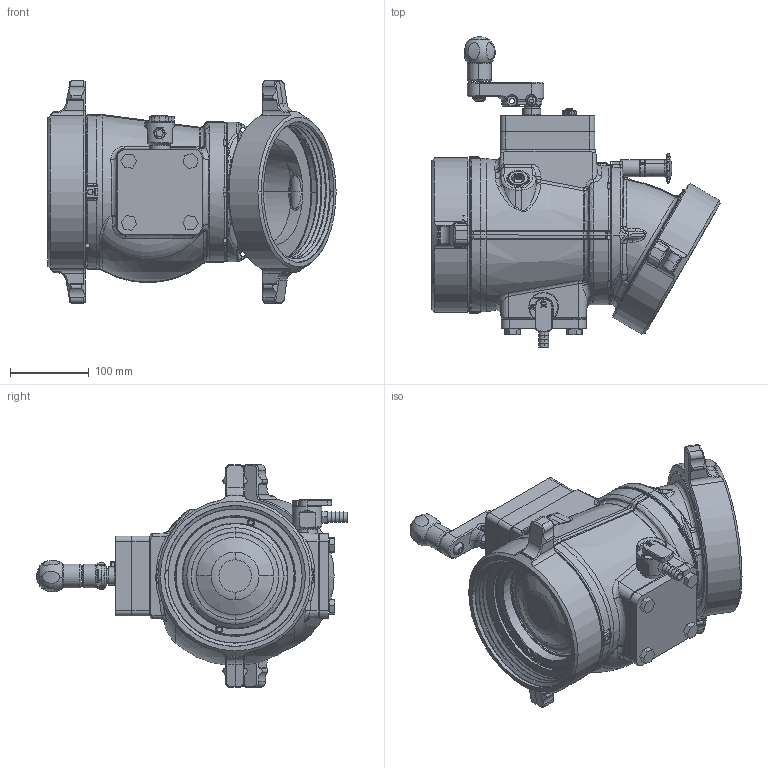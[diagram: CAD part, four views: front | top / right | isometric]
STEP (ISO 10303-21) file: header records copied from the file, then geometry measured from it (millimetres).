
FILE_DESCRIPTION (( 'STEP AP203' ), '1' );
FILE_NAME ('AZ7HNX-NX-PS.step', '2014-05-13T19:29:40', ( 'user' ), ( '' ), 'SwSTEP 2.0', 'SolidWorks 2012', '' );
FILE_SCHEMA (( 'CONFIG_CONTROL_DESIGN' ));
Length unit declared in the file: inch
Products named in the file (1): AZ7HNX-NX-PS
Bounding box: 367.07 x 395.73 x 283.46 mm (x, y, z)
Surface area: 580457.7 mm2 (no closed solid volume)
Topology: 0 solids, 63 shells, 1322 faces, 4051 edges, 2699 vertices
Faces by surface type: plane 385, cylinder 277, cone 266, bspline 242, torus 130, sphere 22
Entity records: 65804 total; most frequent: CARTESIAN_POINT 32628, ORIENTED_EDGE 6941, DIRECTION 6296, EDGE_CURVE 4036, VERTEX_POINT 2695, AXIS2_PLACEMENT_3D 2437, EDGE_LOOP 1441, LINE 1422
